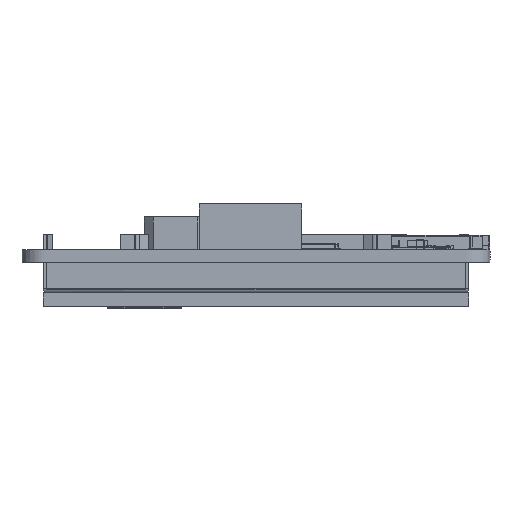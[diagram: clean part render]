
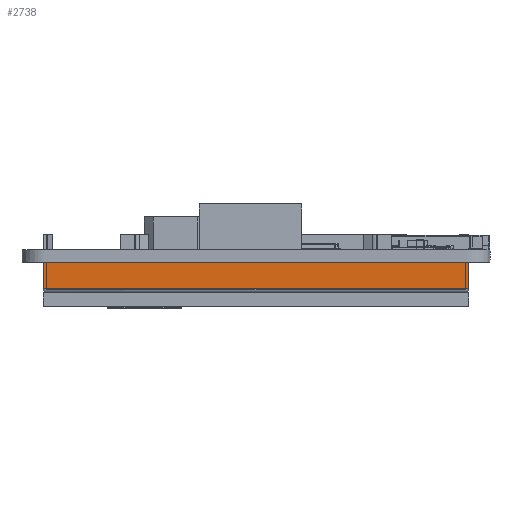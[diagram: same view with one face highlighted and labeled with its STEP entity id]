
A CAD part, left-side view. The second image highlights one B-rep face of the part: STEP entity #2738.
In plain terms, the highlighted planar face has unit normal (-1, 0, 0).
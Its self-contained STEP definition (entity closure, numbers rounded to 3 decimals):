
#2738=ADVANCED_FACE('',(#7186),#5178,.F.);
#5178=PLANE('',#50168);
#7186=FACE_OUTER_BOUND('',#9639,.T.);
#9639=EDGE_LOOP('',(#14005,#14006,#14007,#14008));
#14005=ORIENTED_EDGE('',*,*,#31693,.F.);
#14006=ORIENTED_EDGE('',*,*,#31694,.T.);
#14007=ORIENTED_EDGE('',*,*,#31695,.T.);
#14008=ORIENTED_EDGE('',*,*,#31663,.T.);
#26921=VERTEX_POINT('',#66963);
#26922=VERTEX_POINT('',#66964);
#26945=VERTEX_POINT('',#67025);
#26946=VERTEX_POINT('',#67027);
#31663=EDGE_CURVE('',#26921,#26922,#38524,.T.);
#31693=EDGE_CURVE('',#26945,#26922,#38548,.T.);
#31694=EDGE_CURVE('',#26945,#26946,#38549,.T.);
#31695=EDGE_CURVE('',#26946,#26921,#38550,.T.);
#38524=LINE('',#66962,#44501);
#38548=LINE('',#67024,#44525);
#38549=LINE('',#67026,#44526);
#38550=LINE('',#67028,#44527);
#44501=VECTOR('',#54273,1.);
#44525=VECTOR('',#54325,1.);
#44526=VECTOR('',#54326,1.);
#44527=VECTOR('',#54327,1.);
#50168=AXIS2_PLACEMENT_3D('',#67029,#54328,#54329);
#54273=DIRECTION('',(0.,1.,0.));
#54325=DIRECTION('',(0.,0.,1.));
#54326=DIRECTION('',(0.,-1.,0.));
#54327=DIRECTION('',(0.,0.,1.));
#54328=DIRECTION('',(1.,0.,0.));
#54329=DIRECTION('',(0.,0.,1.));
#66962=CARTESIAN_POINT('',(292.061,-20.489,-1.6));
#66963=CARTESIAN_POINT('',(292.061,-20.489,-1.6));
#66964=CARTESIAN_POINT('',(292.061,35.011,-1.6));
#67024=CARTESIAN_POINT('',(292.061,35.011,-5.6));
#67025=CARTESIAN_POINT('',(292.061,35.011,-5.1));
#67026=CARTESIAN_POINT('',(292.061,-20.489,-5.1));
#67027=CARTESIAN_POINT('',(292.061,-20.489,-5.1));
#67028=CARTESIAN_POINT('',(292.061,-20.489,-5.6));
#67029=CARTESIAN_POINT('',(292.061,-20.489,-5.6));
